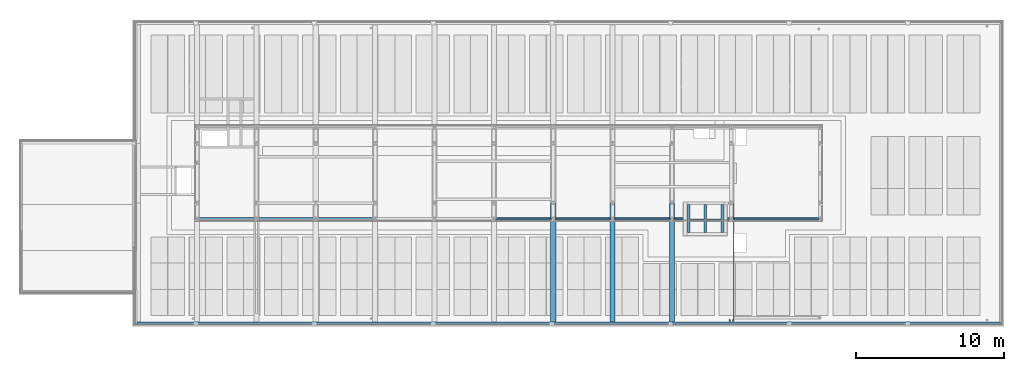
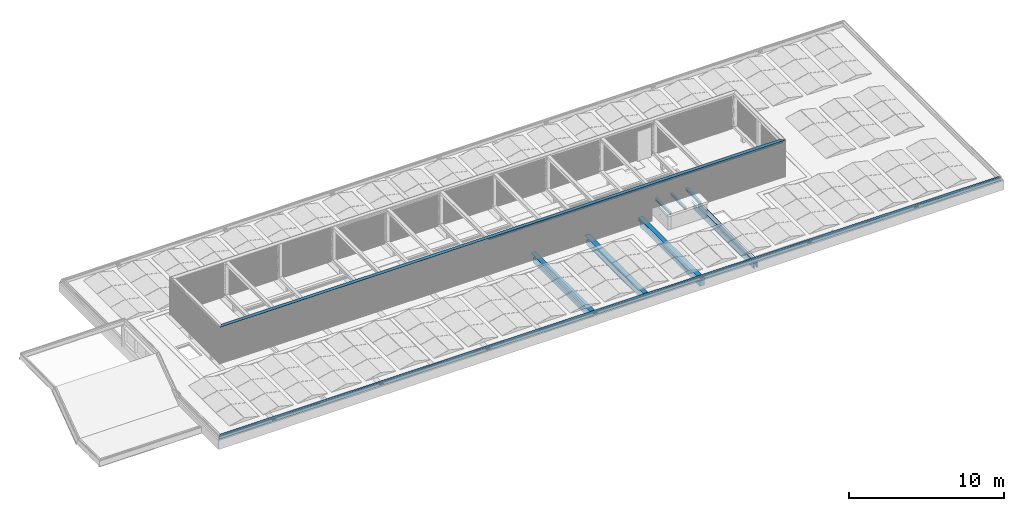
# One storey, part 11 of 63: 11 beams.
"""IFC2X3 building model written with IfcOpenShell, lengths in millimetres."""

from ifc_helpers import new_model, entity, si_unit, converted_unit, derived_unit, money_unit, direction, frame, origin_with_axes, place, context, subcontext, project, spatial, faceted_brep, material, type_object, element, save


model = new_model("IFC2X3")

# Units and contexts
model_context = context("Model", 3, precision=0.01, world=origin_with_axes(), true_north=direction((0.0, 1.0)))
body_context = subcontext(model_context, "Body", "Model", "MODEL_VIEW")
ifc_project = project(units=[si_unit("LENGTHUNIT", "METRE", prefix="MILLI"), si_unit("AREAUNIT", "SQUARE_METRE"), si_unit("VOLUMEUNIT", "CUBIC_METRE"), converted_unit("PLANEANGLEUNIT", "DEGREE", entity("IfcPlaneAngleMeasure", 0.0174532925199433), si_unit("PLANEANGLEUNIT", "RADIAN"), dimensions=[0, 0, 0, 0, 0, 0, 0]), money_unit("EUR"), converted_unit("TIMEUNIT", "Year", entity("IfcTimeMeasure", 31557600.0), si_unit("TIMEUNIT", "SECOND"), dimensions=[0, 0, 1, 0, 0, 0, 0]), si_unit("MASSUNIT", "GRAM", prefix="KILO"), si_unit("THERMODYNAMICTEMPERATUREUNIT", "DEGREE_CELSIUS"), si_unit("LUMINOUSINTENSITYUNIT", "LUMEN"), si_unit("ENERGYUNIT", "JOULE", prefix="MEGA"), derived_unit("THERMALCONDUCTANCEUNIT", [(si_unit("POWERUNIT", "WATT"), 1), (si_unit("LENGTHUNIT", "METRE"), -1), (si_unit("THERMODYNAMICTEMPERATUREUNIT", "KELVIN"), -1)]), derived_unit("SPECIFICHEATCAPACITYUNIT", [(si_unit("ENERGYUNIT", "JOULE"), 1), (si_unit("MASSUNIT", "GRAM", prefix="KILO"), -1), (si_unit("THERMODYNAMICTEMPERATUREUNIT", "KELVIN"), -1)]), derived_unit("MASSDENSITYUNIT", [(si_unit("MASSUNIT", "GRAM", prefix="KILO"), 1), (si_unit("VOLUMEUNIT", "CUBIC_METRE"), -1)])], contexts=[model_context])

# Site, building, storey
site_placement = place(None, origin_with_axes())
site = spatial("IfcSite", under=ifc_project, at=site_placement, Name="<site naam>", CompositionType="ELEMENT")
building_placement = place(site_placement, origin_with_axes())
building = spatial("IfcBuilding", under=site, at=building_placement, Name="<Naam gebouw>", CompositionType="ELEMENT")
storey_placement = place(building_placement, frame((0.0, 0.0, 12770.0), z_axis=(0.0, 0.0, 1.0), x_axis=(1.0, 0.0, 0.0)))
storey = spatial("IfcBuildingStorey", under=building, at=storey_placement, Name="04 4e verdieping", CompositionType="ELEMENT", Elevation=12770.0)

# Beams
ifc_material_1 = material(Name="beton_gewapend C")
beam_type_1 = type_object("IfcBeamType", Name="beton_gewapend C 350 x 600", PredefinedType="BEAM")
beam_1_placement = place(storey_placement, frame((44000.00000000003, 7994.453850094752, -59.99999999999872), z_axis=(0.0, 0.0, 1.0), x_axis=(-1.0, 0.0, 0.0)))
element("IfcBeam", 1, at=beam_1_placement, inside=storey, type_object=beam_type_1, material=ifc_material_1, Name="28_Balk_beton_gewapend", ObjectType="BEAM", context=body_context, shape_type="Brep", body=[
    faceted_brep([(174.9999999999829, 269.453850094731, -159.9999853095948), (174.9999999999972, 7444.453850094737, -159.9999853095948), (-174.9999999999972, 7444.453850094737, -159.9999853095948), (-175.0000000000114, 269.453850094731, -159.9999853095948), (174.9999999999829, 269.453850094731, -599.9999999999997), (174.9999999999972, 7444.453850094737, -599.9999999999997), (-174.9999999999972, 7444.453850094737, -599.9999999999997), (-175.0000000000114, 269.453850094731, -599.9999999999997)], [[[0, 1, 2, 3]], [[4, 5, 1, 0]], [[5, 6, 2, 1]], [[3, 2, 6, 7]], [[4, 0, 3, 7]], [[7, 6, 5, 4]]]),
    faceted_brep([(-175.0000000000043, 7994.453850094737, 0.0), (-175.0000000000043, 7994.453850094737, -9.99998530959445), (-174.9999999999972, 0.0, -9.99998530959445), (-174.9999999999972, 0.0, 0.0), (174.9999999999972, 7994.453850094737, 0.0), (174.9999999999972, 7994.453850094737, -9.99998530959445), (174.9999999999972, 0.0, -9.99998530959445), (174.9999999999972, 0.0, 0.0)], [[[0, 1, 2, 3]], [[4, 5, 1, 0]], [[5, 6, 2, 1]], [[3, 2, 6, 7]], [[3, 7, 4, 0]], [[7, 6, 5, 4]]]),
])
beam_2_placement = place(storey_placement, frame((48000.00000000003, 7994.453850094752, -59.99999999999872), z_axis=(0.0, 0.0, 1.0), x_axis=(-1.0, 0.0, 0.0)))
element("IfcBeam", 2, at=beam_2_placement, inside=storey, type_object=beam_type_1, material=ifc_material_1, Name="28_Balk_beton_gewapend", ObjectType="BEAM", context=body_context, shape_type="Brep", body=[
    faceted_brep([(-175.0000000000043, 7994.453850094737, -599.9999999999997), (-175.0000000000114, 269.453850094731, -599.9999999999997), (-175.0000000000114, 269.453850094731, -220.0000000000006), (-175.0000000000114, 0.0, -220.0000000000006), (-174.9999999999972, 0.0, -159.9999853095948), (-175.0000000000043, 7994.453850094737, -159.9999853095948), (174.9999999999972, 7994.453850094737, -599.9999999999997), (174.9999999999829, 269.453850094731, -599.9999999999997), (174.9999999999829, 269.453850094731, -220.0000000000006), (174.9999999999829, 0.0, -220.0000000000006), (174.9999999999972, 0.0, -159.9999853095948), (174.9999999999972, 7994.453850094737, -159.9999853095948)], [[[0, 1, 2, 3, 4, 5]], [[6, 7, 1, 0]], [[8, 2, 1, 7]], [[8, 9, 3, 2]], [[4, 3, 9, 10]], [[10, 11, 5, 4]], [[6, 0, 5, 11]], [[9, 8, 7, 6, 11, 10]]]),
    faceted_brep([(-175.0000000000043, 7994.453850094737, 0.0), (-175.0000000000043, 7994.453850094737, -9.99998530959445), (-174.9999999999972, 0.0, -9.99998530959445), (-174.9999999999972, 0.0, 0.0), (174.9999999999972, 7994.453850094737, 0.0), (174.9999999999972, 7994.453850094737, -9.99998530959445), (174.9999999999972, 0.0, -9.99998530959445), (174.9999999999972, 0.0, 0.0)], [[[0, 1, 2, 3]], [[4, 5, 1, 0]], [[5, 6, 2, 1]], [[3, 2, 6, 7]], [[3, 7, 4, 0]], [[7, 6, 5, 4]]]),
])
beam_3_placement = place(storey_placement, frame((52000.00007868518, 7994.453824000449, -59.99999999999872), z_axis=(0.0, 0.0, 1.0), x_axis=(-1.0, 0.0, 0.0)))
element("IfcBeam", 3, at=beam_3_placement, inside=storey, type_object=beam_type_1, material=ifc_material_1, Name="28_Balk_beton_gewapend", ObjectType="BEAM", context=body_context, shape_type="Brep", body=[
    faceted_brep([(145.0000786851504, 7832.568433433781, -599.9999999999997), (145.0000786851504, 269.4538240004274, -599.9999999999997), (145.0000786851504, 269.4538240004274, -220.0000000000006), (145.0000786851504, 0.0, -220.0000000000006), (145.0000786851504, 0.0, -159.9999853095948), (145.0000786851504, 7832.568433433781, -159.9999853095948), (174.9999999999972, 7994.453850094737, -599.9999999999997), (175.0000786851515, 269.4538240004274, -599.9999999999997), (65.00007868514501, 7832.568433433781, -599.9999999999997), (65.00007868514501, 7994.453850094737, -599.9999999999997), (175.0000786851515, 269.4538240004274, -220.0000000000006), (175.0000786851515, 0.0, -220.0000000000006), (174.9999999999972, 0.0, -159.9999853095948), (174.9999999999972, 7994.453850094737, -159.9999853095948), (65.00007868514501, 7994.453850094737, -159.9999853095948), (65.00007868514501, 7832.568433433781, -159.9999853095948)], [[[0, 1, 2, 3, 4, 5]], [[6, 7, 1, 0, 8, 9]], [[10, 2, 1, 7]], [[10, 11, 3, 2]], [[4, 3, 11, 12]], [[12, 13, 14, 15, 5, 4]], [[8, 0, 5, 15]], [[11, 10, 7, 6, 13, 12]], [[9, 8, 15, 14]], [[6, 9, 14, 13]]]),
    faceted_brep([(-175.0000000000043, 7994.453850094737, -599.9999999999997), (-174.9999213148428, 269.4538240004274, -599.9999999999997), (-174.9999213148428, 269.4538240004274, -220.0000000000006), (-174.9999213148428, 0.0, -220.0000000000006), (-174.9999999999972, 0.0, -159.9999853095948), (-175.0000000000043, 7994.453850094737, -159.9999853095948), (-134.9999213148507, 7832.568433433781, -599.9999999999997), (-134.9999213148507, 269.4538240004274, -599.9999999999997), (-64.99992131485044, 7994.453850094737, -599.9999999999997), (-64.99992131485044, 7832.568433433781, -599.9999999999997), (-134.9999213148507, 269.4538240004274, -220.0000000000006), (-134.9999213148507, 0.0, -219.9999999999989), (-134.9999213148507, 0.0, -159.9999853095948), (-64.99992131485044, 7832.568433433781, -159.9999853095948), (-64.99992131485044, 7994.453850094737, -159.9999853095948), (-134.9999213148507, 7832.568433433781, -159.9999853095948)], [[[0, 1, 2, 3, 4, 5]], [[6, 7, 1, 0, 8, 9]], [[10, 2, 1, 7]], [[10, 11, 3, 2]], [[4, 3, 11, 12]], [[13, 14, 5, 4, 12, 15]], [[8, 0, 5, 14]], [[11, 10, 7, 6, 15, 12]], [[9, 8, 14, 13]], [[6, 9, 13, 15]]]),
    faceted_brep([(65.00007868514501, 7994.453850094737, 0.0), (65.00007868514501, 7994.453850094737, -9.99998530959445), (65.00007868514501, 7832.568433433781, -9.99998530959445), (65.00007868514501, 7832.568433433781, 0.0), (174.9999999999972, 7994.453850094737, 0.0), (174.9999999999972, 7994.453850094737, -9.99998530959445), (145.0000786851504, 0.0, -9.99998530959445), (145.0000786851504, 7832.568433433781, -9.99998530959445), (174.9999999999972, 0.0, -9.99998530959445), (145.0000786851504, 7832.568433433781, 0.0), (174.9999999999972, 0.0, 0.0), (145.0000786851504, 0.0, 0.0)], [[[0, 1, 2, 3]], [[4, 5, 1, 0]], [[6, 7, 2, 1, 5, 8]], [[3, 2, 7, 9]], [[10, 4, 0, 3, 9, 11]], [[10, 8, 5, 4]], [[9, 7, 6, 11]], [[11, 6, 8, 10]]]),
    faceted_brep([(-175.0000000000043, 7994.453850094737, 0.0), (-175.0000000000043, 7994.453850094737, -9.99998530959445), (-174.9999999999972, 0.0, -9.99998530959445), (-174.9999999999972, 0.0, 0.0), (-64.99992131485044, 7994.453850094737, 0.0), (-64.99992131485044, 7994.453850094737, -9.99998530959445), (-134.9999213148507, 7832.568433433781, -9.99998530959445), (-134.9999213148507, 0.0, -9.99998530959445), (-64.99992131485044, 7832.568433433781, -9.99998530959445), (-134.9999213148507, 0.0, 0.0), (-134.9999213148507, 7832.568433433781, 0.0), (-64.99992131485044, 7832.568433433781, 0.0)], [[[0, 1, 2, 3]], [[4, 5, 1, 0]], [[6, 7, 2, 1, 5, 8]], [[3, 2, 7, 9]], [[9, 10, 11, 4, 0, 3]], [[11, 8, 5, 4]], [[9, 7, 6, 10]], [[10, 6, 8, 11]]]),
])
beam_4_placement = place(storey_placement, frame((40000.00000000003, 7994.453850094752, -59.99999999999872), z_axis=(0.0, 0.0, 1.0), x_axis=(-1.0, 0.0, 0.0)))
element("IfcBeam", 4, at=beam_4_placement, inside=storey, type_object=beam_type_1, material=ifc_material_1, Name="28_Balk_beton_gewapend", ObjectType="BEAM", context=body_context, shape_type="Brep", body=[
    faceted_brep([(174.9999999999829, 269.453850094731, -159.9999853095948), (174.9999999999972, 7444.453850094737, -159.9999853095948), (-174.9999999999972, 7444.453850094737, -159.9999853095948), (-175.0000000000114, 269.453850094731, -159.9999853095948), (174.9999999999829, 269.453850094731, -599.9999999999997), (174.9999999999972, 7444.453850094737, -599.9999999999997), (-174.9999999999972, 7444.453850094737, -599.9999999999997), (-175.0000000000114, 269.453850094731, -599.9999999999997)], [[[0, 1, 2, 3]], [[4, 5, 1, 0]], [[5, 6, 2, 1]], [[3, 2, 6, 7]], [[4, 0, 3, 7]], [[7, 6, 5, 4]]]),
    faceted_brep([(-175.0000000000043, 7994.453850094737, 0.0), (-175.0000000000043, 7994.453850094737, -9.99998530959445), (-174.9999999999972, 0.0, -9.99998530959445), (-174.9999999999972, 0.0, 0.0), (174.9999999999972, 7994.453850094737, 0.0), (174.9999999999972, 7994.453850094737, -9.99998530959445), (174.9999999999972, 0.0, -9.99998530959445), (174.9999999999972, 0.0, 0.0)], [[[0, 1, 2, 3]], [[4, 5, 1, 0]], [[5, 6, 2, 1]], [[3, 2, 6, 7]], [[3, 7, 4, 0]], [[7, 6, 5, 4]]]),
])
ifc_material_2 = material(Name="ALG - BUITENAFWERKING")
beam_type_2 = type_object("IfcBeamType", Name="ALG - BUITENAFWERKING 170 x 18", PredefinedType="BEAM")
beam_5_placement = place(storey_placement, frame((11956.80000242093, -33.24878372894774, 241.2498222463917), z_axis=(0.0, 0.0, 1.0), x_axis=(0.0, -1.0, 0.0)))
element("IfcBeam", 5, at=beam_5_placement, inside=storey, type_object=beam_type_2, material=ifc_material_2, Name="47_Balk_ALG", ObjectType="BEAM", context=body_context, shape_type="Brep", body=[
    faceted_brep([(169.9999999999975, 58291.39999515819, 18.00262955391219), (0.0, 58121.39999515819, 18.00262955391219), (0.0, 0.0, 18.00262955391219), (170.000000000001, -169.9999999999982, 18.00262955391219), (169.9999999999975, 58291.39999515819, 0.0), (0.0, 58121.39999515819, 0.0), (0.0, 0.0, 0.0), (170.000000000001, -169.9999999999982, 0.0)], [[[0, 1, 2, 3]], [[0, 4, 5, 1]], [[1, 5, 6, 2]], [[3, 2, 6, 7]], [[4, 0, 3, 7]], [[5, 4, 7, 6]]]),
])
ifc_material_3 = material(Name="staal C")
beam_type_3 = type_object("IfcBeamType", Name="RHS100X100X5 100 x 100", PredefinedType="BEAM")
beam_6_placement = place(storey_placement, frame((58000.0065140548, 6863.118721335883, 3039.88580884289), z_axis=(0.0, 0.0, 1.0), x_axis=(0.000130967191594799, 0.9999999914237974, 0.0)))
element("IfcBeam", 6, at=beam_6_placement, inside=storey, type_object=beam_type_3, material=ifc_material_3, Name="Info_Balk_RHS100X100X5", ObjectType="BEAM", context=body_context, shape_type="Brep", body=[
    faceted_brep([(-49.99999999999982, 5889.999937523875, 50.00000000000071), (-49.99999999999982, 5889.999937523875, -50.00000000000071), (-50.00000000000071, 109.9999666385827, -50.00000000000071), (-50.00000000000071, 109.9999666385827, 50.00000000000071), (-47.89014462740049, 5890.000213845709, 50.00000000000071), (-47.89014462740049, 5890.000213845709, -50.00000000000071), (-47.90392892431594, 5995.250212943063, -50.00000000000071), (49.99999999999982, 5995.26303514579, -50.00000000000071), (50.00000000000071, 4.763062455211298, -50.00000000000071), (-47.11934387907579, 4.750343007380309, -50.00000000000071), (-47.13312817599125, 110.0003421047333, -50.00000000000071), (-47.13312817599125, 110.0003421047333, 50.00000000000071), (49.99999999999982, 5995.26303514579, 50.00000000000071), (-47.90392892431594, 5995.250212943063, 50.00000000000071), (-47.11934387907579, 4.750343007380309, 50.00000000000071), (50.00000000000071, 4.763062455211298, 50.00000000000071), (-44.99999999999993, 5995.250593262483, 44.99999999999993), (-44.99999999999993, 5995.250593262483, -44.99999999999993), (45.00000000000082, 5995.262380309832, -44.99999999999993), (45.00000000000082, 5995.262380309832, 44.99999999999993), (45.00000000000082, 4.762407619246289, 44.99999999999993), (45.00000000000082, 4.762407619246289, -44.99999999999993), (-44.99999999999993, 4.750620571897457, -44.99999999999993), (-44.99999999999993, 4.750620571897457, 44.99999999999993)], [[[0, 1, 2, 3]], [[4, 5, 1, 0]], [[1, 5, 6, 7, 8, 9, 10, 2]], [[11, 3, 2, 10]], [[12, 13, 4, 0, 3, 11, 14, 15]], [[13, 6, 5, 4]], [[7, 6, 13, 12], [16, 17, 18, 19]], [[15, 8, 7, 12]], [[15, 14, 9, 8], [20, 21, 22, 23]], [[14, 11, 10, 9]], [[23, 22, 17, 16]], [[21, 18, 17, 22]], [[19, 18, 21, 20]], [[23, 16, 19, 20]]]),
    faceted_brep([(-50.00000000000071, 21890.00018773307, 50.00000000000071), (-50.00000000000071, 21890.00018773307, -50.00000000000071), (-50.00000000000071, 18110.00012101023, -50.00000000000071), (-50.00000000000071, 18110.00012101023, 50.00000000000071), (-49.98559360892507, 21890.00018961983, 50.00000000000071), (-49.98559360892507, 21890.00018961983, -50.00000000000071), (-49.99937790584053, 21995.25018871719, -50.00000000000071), (49.99999999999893, 21995.26328535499, -50.00000000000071), (49.99999999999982, 18004.76321682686, -50.00000000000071), (-41.61996602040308, 18004.75121761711, -50.00000000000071), (-41.63375031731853, 18110.00121671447, -50.00000000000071), (-41.63375031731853, 18110.00121671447, 50.00000000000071), (-41.63375031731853, 18110.00121671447, -44.99999999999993), (-44.99999999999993, 18110.00077584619, -44.99999999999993), (-44.99999999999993, 18110.00077584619, 44.99999999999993), (-41.63375031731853, 18110.00121671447, 44.99999999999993), (-49.99937790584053, 21995.25018871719, 50.00000000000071), (-41.61996602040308, 18004.75121761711, 50.00000000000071), (49.99999999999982, 18004.76321682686, 50.00000000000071), (49.99999999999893, 21995.26328535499, 50.00000000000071), (44.99999999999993, 21995.26263051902, 44.99999999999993), (-44.99999999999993, 21995.25084347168, 44.99999999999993), (-44.99999999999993, 21995.25084347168, -44.99999999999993), (44.99999999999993, 21995.26263051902, -44.99999999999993), (45.00000000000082, 18004.76256199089, -44.99999999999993), (-41.61996602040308, 18004.75121761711, -44.99999999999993), (-41.61996602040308, 18004.75121761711, 44.99999999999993), (45.00000000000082, 18004.76256199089, 44.99999999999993)], [[[0, 1, 2, 3]], [[4, 5, 1, 0]], [[2, 1, 5, 6, 7, 8, 9, 10]], [[11, 3, 2, 10, 12, 13, 14, 15]], [[16, 4, 0, 3, 11, 17, 18, 19]], [[16, 6, 5, 4]], [[7, 6, 16, 19], [20, 21, 22, 23]], [[18, 8, 7, 19]], [[24, 25, 9, 8, 18, 17, 26, 27]], [[25, 12, 10, 9]], [[23, 22, 13, 12, 25, 24]], [[14, 13, 22, 21]], [[15, 14, 21, 20, 27, 26]], [[17, 11, 15, 26]], [[20, 23, 24, 27]]]),
    faceted_brep([(-41.61872183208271, 17995.25121769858, -50.00000000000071), (-41.61872183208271, 17995.25121769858, -44.99999999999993), (45.00000000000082, 17995.26256190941, -44.99999999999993), (45.00000000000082, 17995.26256190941, 44.99999999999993), (-41.61872183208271, 17995.25121769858, 44.99999999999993), (-41.61872183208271, 17995.25121769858, 50.00000000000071), (49.99999999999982, 17995.26321674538, 50.00000000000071), (49.99999999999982, 17995.26321674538, -50.00000000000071), (-41.60493753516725, 17890.00121860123, -50.00000000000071), (-41.60493753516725, 17890.00121860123, -44.99999999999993), (-44.99999999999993, 17890.00077395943, -44.99999999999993), (-45.00000000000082, 14004.75074063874, -44.99999999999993), (44.99999999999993, 14004.76252768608, -44.99999999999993), (44.99999999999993, 14004.76252768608, 44.99999999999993), (-41.60493753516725, 17890.00121860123, 44.99999999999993), (-45.00000000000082, 14004.75074063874, 44.99999999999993), (-44.99999999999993, 17890.00077395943, 44.99999999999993), (-41.60493753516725, 17890.00121860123, 50.00000000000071), (-49.99999999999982, 17890.00011912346, 50.00000000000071), (-50.00000000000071, 14110.00008670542, 50.00000000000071), (-48.96666885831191, 14110.0002220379, 50.00000000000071), (-48.95288456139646, 14004.75022294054, 50.00000000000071), (49.99999999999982, 14004.76318252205, 50.00000000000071), (49.99999999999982, 14004.76318252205, -50.00000000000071), (-48.96666885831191, 14110.0002220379, -50.00000000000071), (-50.00000000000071, 14110.00008670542, -50.00000000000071), (-49.99999999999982, 17890.00011912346, -50.00000000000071), (-48.95288456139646, 14004.75022294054, -50.00000000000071)], [[[0, 1, 2, 3, 4, 5, 6, 7]], [[8, 9, 1, 0]], [[10, 11, 12, 2, 1, 9]], [[3, 2, 12, 13]], [[14, 4, 3, 13, 15, 16]], [[5, 4, 14, 17]], [[18, 19, 20, 21, 22, 6, 5, 17]], [[22, 23, 7, 6]], [[24, 25, 26, 8, 0, 7, 23, 27]], [[8, 26, 18, 17, 14, 16, 10, 9]], [[16, 15, 11, 10]], [[22, 21, 27, 23], [12, 11, 15, 13]], [[18, 26, 25, 19]], [[19, 25, 24, 20]], [[20, 24, 27, 21]]]),
    faceted_brep([(-48.95164037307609, 13995.25022302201, 50.00000000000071), (-48.95164037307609, 13995.25022302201, -50.00000000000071), (-48.93785607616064, 13890.00022392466, -50.00000000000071), (-48.93785607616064, 13890.00022392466, 50.00000000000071), (49.99999999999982, 13995.26318244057, -50.00000000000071), (49.99999999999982, 13995.26318244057, 50.00000000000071), (44.99999999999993, 13995.2625276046, 44.99999999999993), (-44.99999999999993, 13995.25074055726, 44.99999999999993), (-44.99999999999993, 13995.25074055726, -44.99999999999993), (44.99999999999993, 13995.2625276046, -44.99999999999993), (-48.4428000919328, 10110.00025634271, -50.00000000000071), (-50.00000000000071, 10110.00005240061, -50.00000000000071), (-49.99999999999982, 13890.00008481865, -50.00000000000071), (49.99999999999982, 10004.76314821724, -50.00000000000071), (-48.42901579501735, 10004.75025724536, -50.00000000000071), (-49.99999999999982, 13890.00008481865, 50.00000000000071), (-50.00000000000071, 10110.00005240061, 50.00000000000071), (-48.4428000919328, 10110.00025634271, 50.00000000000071), (-48.42901579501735, 10004.75025724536, 50.00000000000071), (49.99999999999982, 10004.76314821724, 50.00000000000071), (45.00000000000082, 10004.76249338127, 44.99999999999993), (-44.99999999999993, 10004.75070633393, 44.99999999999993), (-44.99999999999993, 10004.75070633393, -44.99999999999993), (45.00000000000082, 10004.76249338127, -44.99999999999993)], [[[0, 1, 2, 3]], [[4, 1, 0, 5], [6, 7, 8, 9]], [[10, 11, 12, 2, 1, 4, 13, 14]], [[15, 3, 2, 12]], [[5, 0, 3, 15, 16, 17, 18, 19]], [[19, 13, 4, 5]], [[20, 21, 7, 6]], [[21, 22, 8, 7]], [[9, 8, 22, 23]], [[6, 9, 23, 20]], [[17, 16, 11, 10]], [[15, 12, 11, 16]], [[19, 18, 14, 13], [23, 22, 21, 20]], [[17, 10, 14, 18]]]),
    faceted_brep([(-49.99999999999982, 9890.000050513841, 50.00000000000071), (-49.99999999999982, 9890.000050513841, -50.00000000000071), (-49.99999999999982, 6109.999939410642, -50.00000000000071), (-49.99999999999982, 6109.999939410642, 50.00000000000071), (-48.41398730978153, 9890.000258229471, -50.00000000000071), (-48.41398730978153, 9890.000258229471, 50.00000000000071), (-47.91895740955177, 6110.000211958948, -50.00000000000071), (-48.42777160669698, 9995.250257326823, -50.00000000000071), (49.99999999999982, 9995.263148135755, -50.00000000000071), (49.99999999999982, 6004.763035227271, -50.00000000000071), (-47.90517311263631, 6004.750212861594, -50.00000000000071), (-47.91895740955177, 6110.000211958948, 50.00000000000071), (-47.90517311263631, 6004.750212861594, 50.00000000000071), (49.99999999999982, 6004.763035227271, 50.00000000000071), (49.99999999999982, 9995.263148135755, 50.00000000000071), (-48.42777160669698, 9995.250257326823, 50.00000000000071), (-44.99999999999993, 9995.25070625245, 44.99999999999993), (-44.99999999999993, 9995.25070625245, -44.99999999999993), (45.00000000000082, 9995.262493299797, -44.99999999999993), (45.00000000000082, 9995.262493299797, 44.99999999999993), (44.99999999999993, 6004.762380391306, -44.99999999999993), (-45.00000000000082, 6004.750593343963, -44.99999999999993), (-45.00000000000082, 6004.750593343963, 44.99999999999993), (44.99999999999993, 6004.762380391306, 44.99999999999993)], [[[0, 1, 2, 3]], [[4, 1, 0, 5]], [[6, 2, 1, 4, 7, 8, 9, 10]], [[3, 2, 6, 11]], [[5, 0, 3, 11, 12, 13, 14, 15]], [[5, 15, 7, 4]], [[8, 7, 15, 14], [16, 17, 18, 19]], [[13, 9, 8, 14]], [[13, 12, 10, 9], [20, 21, 22, 23]], [[11, 6, 10, 12]], [[21, 17, 16, 22]], [[20, 18, 17, 21]], [[23, 19, 18, 20]], [[22, 16, 19, 23]]]),
])
ifc_material_4 = material(Name="staal")
beam_type_4 = type_object("IfcBeamType", Name="stalen gevelschermafdekker 255 x 35", PredefinedType="BEAM")
beam_7_placement = place(storey_placement, frame((58145.00007843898, 6765.043044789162, 2921.405981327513), z_axis=(0.0, 0.0, 1.0), x_axis=(-0.000130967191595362, 0.9999999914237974, 0.0)))
element("IfcBeam", 7, at=beam_7_placement, inside=storey, type_object=beam_type_4, material=ifc_material_4, Name="Info_Balk_stalen", ObjectType="BEAM", context=body_context, shape_type="Brep", body=[
    faceted_brep([(11.01997556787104, 42278.97910079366, 249.000008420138), (11.01997556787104, 11.01853240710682, 249.000008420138), (9.999999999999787, 9.998690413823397, 249.000008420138), (9.999999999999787, 42279.99920995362, 249.000008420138), (11.01997556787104, 42278.97910079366, 283.0000014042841), (11.01997556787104, 11.01853240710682, 283.0000014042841), (264.9874219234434, 264.9527195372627, 259.0000084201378), (264.9874219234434, 264.9527195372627, 284.0000084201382), (9.999999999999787, 9.998690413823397, 284.0000084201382), (264.0199747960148, 263.9853991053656, 283.0000014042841), (264.0199747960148, 263.9853991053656, 259.0000084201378), (9.999999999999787, 42279.99920995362, 284.0000084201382), (264.0199747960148, 42025.94596469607, 283.0000014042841), (264.9874219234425, 42024.97839085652, 284.0000084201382), (264.9874219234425, 42024.97839085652, 259.0000084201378), (264.0199747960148, 42025.94596469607, 259.0000084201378)], [[[0, 1, 2, 3]], [[4, 5, 1, 0]], [[6, 7, 8, 2, 1, 5, 9, 10]], [[3, 2, 8, 11]], [[12, 4, 0, 3, 11, 13, 14, 15]], [[12, 9, 5, 4]], [[13, 7, 6, 14]], [[11, 8, 7, 13]], [[15, 10, 9, 12]], [[14, 6, 10, 15]]]),
])
beam_type_5 = type_object("IfcBeamType", Name="ALG - BUITENAFWERKING 120 x 329", PredefinedType="BEAM")
beam_8_placement = place(storey_placement, frame((11930.00000242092, -34.99999999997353, -70.00000000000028), z_axis=(0.0, 0.0, 1.0), x_axis=(0.0, -1.0, 0.0)))
element("IfcBeam", 8, at=beam_8_placement, inside=storey, type_object=beam_type_5, material=ifc_material_2, Name="47_Balk_ALG", ObjectType="BEAM", context=body_context, shape_type="Brep", body=[
    faceted_brep([(119.9999999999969, 58269.99999515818, 311.249822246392), (119.9999999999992, -119.9999999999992, 311.249822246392), (119.9999999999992, -119.9999999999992, 0.0), (119.9999999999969, 58269.99999515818, 0.0), (119.9999999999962, 51819.99999757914, 149.9785226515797), (119.9999999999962, 51819.99999757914, 229.9785226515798), (119.9999999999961, 52119.99999757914, 229.9785226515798), (119.9999999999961, 52119.99999757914, 149.9785226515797), (119.9999999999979, 43819.99999757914, 229.9785226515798), (119.9999999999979, 44119.99999757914, 229.9785226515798), (119.9999999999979, 44119.99999757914, 149.9785226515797), (119.9999999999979, 43819.99999757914, 149.9785226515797), (119.9999999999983, 36119.99999757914, 229.9785226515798), (119.9999999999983, 36119.99999757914, 149.9785226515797), (119.9999999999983, 35819.99999757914, 149.9785226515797), (119.9999999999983, 35819.99999757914, 229.9785226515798), (119.9999999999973, 28119.99999757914, 149.9785226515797), (119.9999999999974, 27819.99999757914, 149.9785226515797), (119.9999999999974, 27819.99999757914, 229.9785226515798), (119.9999999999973, 28119.99999757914, 229.9785226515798), (119.9999999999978, 19819.99999757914, 149.9785226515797), (119.9999999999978, 19819.99999757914, 229.9785226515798), (119.9999999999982, 20119.99999757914, 229.9785226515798), (119.9999999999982, 20119.99999757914, 149.9785226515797), (119.9999999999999, 11819.99999757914, 229.9785226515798), (119.9999999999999, 12119.99999757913, 229.9785226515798), (119.9999999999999, 12119.99999757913, 149.9785226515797), (119.9999999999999, 11819.99999757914, 149.9785226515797), (120.0000000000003, 4119.999997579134, 229.9785226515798), (120.0000000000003, 4119.999997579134, 149.9785226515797), (120.0000000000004, 3819.999997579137, 149.9785226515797), (120.0000000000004, 3819.999997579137, 229.9785226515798), (0.0, 58149.99999515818, 311.249822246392), (0.0, 0.0, 311.249822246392), (0.0, 0.0, 0.0), (0.0, 58149.99999515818, 0.0), (0.0, 51819.99999757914, 149.9785226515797), (0.0, 51819.99999757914, 229.9785226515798), (0.0, 52119.99999757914, 229.9785226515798), (0.0, 52119.99999757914, 149.9785226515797), (0.0, 44119.99999757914, 229.9785226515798), (0.0, 43819.99999757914, 229.9785226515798), (0.0, 44119.99999757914, 149.9785226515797), (0.0, 43819.99999757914, 149.9785226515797), (0.0, 36119.99999757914, 229.9785226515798), (0.0, 36119.99999757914, 149.9785226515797), (0.0, 35819.99999757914, 149.9785226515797), (0.0, 35819.99999757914, 229.9785226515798), (0.0, 28119.99999757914, 149.9785226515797), (0.0, 27819.99999757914, 149.9785226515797), (0.0, 27819.99999757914, 229.9785226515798), (0.0, 28119.99999757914, 229.9785226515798), (0.0, 19819.99999757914, 149.9785226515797), (0.0, 19819.99999757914, 229.9785226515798), (0.0, 20119.99999757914, 229.9785226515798), (0.0, 20119.99999757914, 149.9785226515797), (0.0, 12119.99999757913, 229.9785226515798), (0.0, 11819.99999757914, 229.9785226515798), (0.0, 12119.99999757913, 149.9785226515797), (0.0, 11819.99999757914, 149.9785226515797), (0.0, 4119.999997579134, 229.9785226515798), (0.0, 4119.999997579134, 149.9785226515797), (0.0, 3819.999997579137, 149.9785226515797), (0.0, 3819.999997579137, 229.9785226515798)], [[[0, 1, 2, 3], [4, 5, 6, 7], [8, 9, 10, 11], [12, 13, 14, 15], [16, 17, 18, 19], [20, 21, 22, 23], [24, 25, 26, 27], [28, 29, 30, 31]], [[32, 33, 1, 0]], [[2, 1, 33, 34]], [[35, 3, 2, 34]], [[0, 3, 35, 32]], [[36, 37, 5, 4]], [[37, 38, 6, 5]], [[38, 39, 7, 6]], [[39, 36, 4, 7]], [[40, 9, 8, 41]], [[42, 10, 9, 40]], [[43, 11, 10, 42]], [[41, 8, 11, 43]], [[13, 12, 44, 45]], [[14, 13, 45, 46]], [[15, 14, 46, 47]], [[12, 15, 47, 44]], [[16, 48, 49, 17]], [[17, 49, 50, 18]], [[18, 50, 51, 19]], [[19, 51, 48, 16]], [[52, 53, 21, 20]], [[53, 54, 22, 21]], [[54, 55, 23, 22]], [[55, 52, 20, 23]], [[56, 25, 24, 57]], [[58, 26, 25, 56]], [[59, 27, 26, 58]], [[57, 24, 27, 59]], [[29, 28, 60, 61]], [[30, 29, 61, 62]], [[31, 30, 62, 63]], [[28, 31, 63, 60]], [[34, 33, 32, 35], [36, 39, 38, 37], [42, 40, 41, 43], [44, 47, 46, 45], [50, 49, 48, 51], [52, 55, 54, 53], [58, 56, 57, 59], [60, 63, 62, 61]]]),
])
beam_type_6 = type_object("IfcBeamType", Name="Profiel H algemeen 160 x 160", PredefinedType="BEAM")
for number, where, z_axis, x_axis, name in (
    (9, (51384.99986683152, 7904.999998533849, 1032.679079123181), (0.0, 0.0, 1.0), (-1.0, 0.0, 0.0), "28_Balk_Profiel"),
    (10, (49116.99992970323, 7904.999998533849, 1032.679079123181), (0.0, 0.0, 1.0), (-1.0, 0.0, 0.0), "28_Balk_Profiel"),
):
    element("IfcBeam", number, at=place(storey_placement, frame(where, z_axis=z_axis, x_axis=x_axis)), inside=storey, type_object=beam_type_6, material=ifc_material_3, Name=name, ObjectType="BEAM", context=body_context, shape_type="Brep", body=[
        faceted_brep([(-80.00015717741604, 0.0, -80.0125918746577), (-80.00015717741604, 1900.0, -113.1772031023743), (80.00015717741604, 1900.0, -113.1772031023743), (80.00015717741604, 0.0, -80.0125918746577), (-80.00014145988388, 0.0, -65.00975783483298), (-80.00014145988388, 1899.999999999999, -98.17436906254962), (-3.999999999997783, 1899.999999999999, -98.17436906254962), (-3.999999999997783, 1899.999999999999, 31.84514660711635), (-80.00014145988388, 1899.999999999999, 31.84514660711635), (-80.00015717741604, 1899.999999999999, 46.84798064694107), (80.00015717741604, 1899.999999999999, 46.84798064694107), (80.00014145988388, 1899.999999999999, 31.84514660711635), (3.999999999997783, 1899.999999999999, 31.84514660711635), (3.999999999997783, 1899.999999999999, -98.17436906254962), (80.00014145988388, 1899.999999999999, -98.17436906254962), (80.00014145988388, 0.0, -65.00975783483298), (3.999999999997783, 0.0, -65.00975783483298), (3.999999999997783, 0.0, 65.00975783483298), (80.00014145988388, 0.0, 65.00975783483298), (80.00015717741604, 0.0, 80.0125918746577), (-80.00015717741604, 0.0, 80.0125918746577), (-80.00014145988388, 0.0, 65.00975783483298), (-3.999999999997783, 0.0, 65.00975783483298), (-3.999999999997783, 0.0, -65.00975783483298)], [[[0, 1, 2, 3]], [[4, 5, 1, 0]], [[2, 1, 5, 6, 7, 8, 9, 10, 11, 12, 13, 14]], [[3, 2, 14, 15]], [[4, 0, 3, 15, 16, 17, 18, 19, 20, 21, 22, 23]], [[23, 6, 5, 4]], [[22, 7, 6, 23]], [[21, 8, 7, 22]], [[20, 9, 8, 21]], [[19, 10, 9, 20]], [[18, 11, 10, 19]], [[17, 12, 11, 18]], [[16, 13, 12, 17]], [[15, 14, 13, 16]]]),
    ])
beam_9_placement = place(storey_placement, frame((50250.99989826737, 7904.975638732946, 1029.899581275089), z_axis=(0.0, 0.0, 1.0), x_axis=(-1.0, 0.0, 0.0)))
element("IfcBeam", 11, at=beam_9_placement, inside=storey, type_object=beam_type_6, material=ifc_material_3, Name="28_Balk_Profiel", ObjectType="BEAM", context=body_context, shape_type="Brep", body=[
    faceted_brep([(-80.00011002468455, 0.0, -80.01248124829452), (-80.00011002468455, 1900.000007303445, -113.1770926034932), (80.00011002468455, 1900.000007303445, -113.1770926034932), (80.00011002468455, 0.0, -80.01248124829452), (-80.00009430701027, 0.0, -65.00964720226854), (-80.00009430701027, 1900.000007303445, -98.1742585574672), (-3.999999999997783, 1900.000007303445, -98.1742585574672), (-3.999999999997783, 1900.000007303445, 31.84503584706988), (-80.00009430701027, 1900.000007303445, 31.84503584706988), (-80.00011002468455, 1900.000007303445, 46.84786989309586), (80.00011002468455, 1900.000007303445, 46.84786989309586), (80.00009430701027, 1900.000007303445, 31.84503584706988), (3.999999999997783, 1900.000007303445, 31.84503584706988), (3.999999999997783, 1900.000007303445, -98.1742585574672), (80.00009430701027, 1900.000007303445, -98.1742585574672), (80.00009430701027, 0.0, -65.00964720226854), (3.999999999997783, 0.0, -65.00964720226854), (3.999999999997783, 0.0, 65.00964720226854), (80.00009430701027, 0.0, 65.00964720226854), (80.00011002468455, 0.0, 80.01248124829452), (-80.00011002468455, 0.0, 80.01248124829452), (-80.00009430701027, 0.0, 65.00964720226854), (-3.999999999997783, 0.0, 65.00964720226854), (-3.999999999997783, 0.0, -65.00964720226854)], [[[0, 1, 2, 3]], [[4, 5, 1, 0]], [[2, 1, 5, 6, 7, 8, 9, 10, 11, 12, 13, 14]], [[3, 2, 14, 15]], [[4, 0, 3, 15, 16, 17, 18, 19, 20, 21, 22, 23]], [[23, 6, 5, 4]], [[22, 7, 6, 23]], [[21, 8, 7, 22]], [[20, 9, 8, 21]], [[19, 10, 9, 20]], [[18, 11, 10, 19]], [[17, 12, 11, 18]], [[16, 13, 12, 17]], [[15, 14, 13, 16]]]),
])

save(model, "model.ifc")
